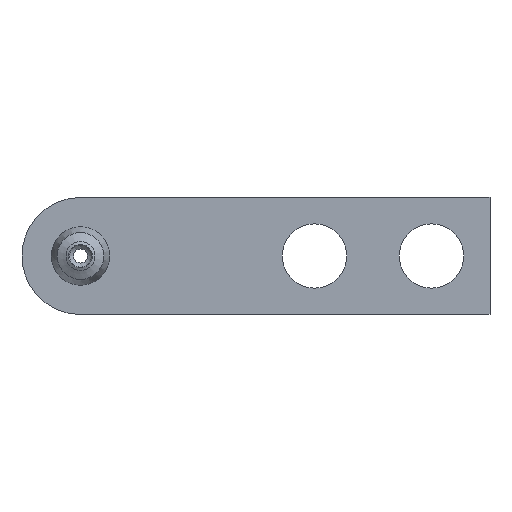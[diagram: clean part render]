
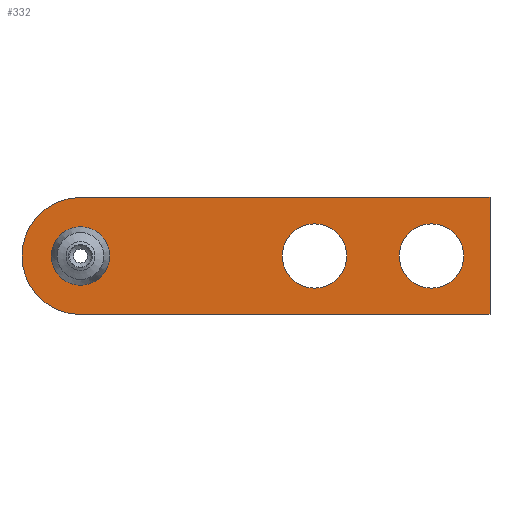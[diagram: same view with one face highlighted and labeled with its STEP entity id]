
A CAD part, front view. The second image highlights one B-rep face of the part: STEP entity #332.
In plain terms, the highlighted planar face has unit normal (0, -1, 0).
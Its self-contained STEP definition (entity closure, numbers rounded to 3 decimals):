
#332=ADVANCED_FACE('',(#408,#409,#410,#411),#412,.F.);
#408=FACE_OUTER_BOUND('',#586,.T.);
#409=FACE_BOUND('',#587,.T.);
#410=FACE_BOUND('',#588,.T.);
#411=FACE_BOUND('',#589,.T.);
#412=PLANE('',#590);
#586=EDGE_LOOP('',(#813,#814,#815,#816));
#587=EDGE_LOOP('',(#817));
#588=EDGE_LOOP('',(#818));
#589=EDGE_LOOP('',(#819));
#590=AXIS2_PLACEMENT_3D('',#820,#821,#822);
#813=ORIENTED_EDGE('',*,*,#1158,.F.);
#814=ORIENTED_EDGE('',*,*,#1155,.F.);
#815=ORIENTED_EDGE('',*,*,#1159,.F.);
#816=ORIENTED_EDGE('',*,*,#1160,.F.);
#817=ORIENTED_EDGE('',*,*,#1145,.T.);
#818=ORIENTED_EDGE('',*,*,#1154,.T.);
#819=ORIENTED_EDGE('',*,*,#1153,.T.);
#820=CARTESIAN_POINT('',(0.,0.0,0.0));
#821=DIRECTION('',(-0.0,1.0,0.0));
#822=DIRECTION('',(1.0,0.0,0.0));
#1145=EDGE_CURVE('',#1234,#1234,#1235,.T.);
#1153=EDGE_CURVE('',#1250,#1250,#1251,.T.);
#1154=EDGE_CURVE('',#1252,#1252,#1253,.T.);
#1155=EDGE_CURVE('',#1254,#1255,#1256,.T.);
#1158=EDGE_CURVE('',#1255,#1259,#1260,.T.);
#1159=EDGE_CURVE('',#1261,#1254,#1262,.T.);
#1160=EDGE_CURVE('',#1259,#1261,#1263,.T.);
#1234=VERTEX_POINT('',#1396);
#1235=CIRCLE('',#1397,2.75);
#1250=VERTEX_POINT('',#1415);
#1251=CIRCLE('',#1416,2.5);
#1252=VERTEX_POINT('',#1417);
#1253=CIRCLE('',#1418,2.75);
#1254=VERTEX_POINT('',#1419);
#1255=VERTEX_POINT('',#1420);
#1256=LINE('',#1421,#1422);
#1259=VERTEX_POINT('',#1427);
#1260=LINE('',#1428,#1429);
#1261=VERTEX_POINT('',#1430);
#1262=LINE('',#1431,#1432);
#1263=CIRCLE('',#1433,5.0);
#1396=CARTESIAN_POINT('',(32.75,0.0,0.0));
#1397=AXIS2_PLACEMENT_3D('',#1682,#1683,#1684);
#1415=CARTESIAN_POINT('',(2.5,0.0,0.0));
#1416=AXIS2_PLACEMENT_3D('',#1700,#1701,#1702);
#1417=CARTESIAN_POINT('',(22.75,0.0,0.0));
#1418=AXIS2_PLACEMENT_3D('',#1703,#1704,#1705);
#1419=CARTESIAN_POINT('',(35.0,0.0,5.0));
#1420=CARTESIAN_POINT('',(35.0,0.0,-5.0));
#1421=CARTESIAN_POINT('',(35.0,0.0,5.0));
#1422=VECTOR('',#1706,1.0);
#1427=CARTESIAN_POINT('',(0.,0.0,-5.0));
#1428=CARTESIAN_POINT('',(35.0,0.0,-5.0));
#1429=VECTOR('',#1709,1.0);
#1430=CARTESIAN_POINT('',(0.,0.0,5.0));
#1431=CARTESIAN_POINT('',(0.,0.0,5.0));
#1432=VECTOR('',#1710,1.0);
#1433=AXIS2_PLACEMENT_3D('',#1711,#1712,#1713);
#1682=CARTESIAN_POINT('',(30.0,0.0,0.0));
#1683=DIRECTION('',(-0.0,1.0,0.0));
#1684=DIRECTION('',(1.0,0.0,0.0));
#1700=CARTESIAN_POINT('',(0.,0.0,0.0));
#1701=DIRECTION('',(-0.0,1.0,0.0));
#1702=DIRECTION('',(1.0,0.0,0.0));
#1703=CARTESIAN_POINT('',(20.0,0.0,0.0));
#1704=DIRECTION('',(-0.0,1.0,0.0));
#1705=DIRECTION('',(1.0,0.0,0.0));
#1706=DIRECTION('',(0.0,0.0,-1.0));
#1709=DIRECTION('',(-1.0,0.0,0.0));
#1710=DIRECTION('',(1.0,0.0,0.0));
#1711=CARTESIAN_POINT('',(0.,0.0,0.0));
#1712=DIRECTION('',(-0.0,1.0,0.0));
#1713=DIRECTION('',(1.0,0.0,0.0));
